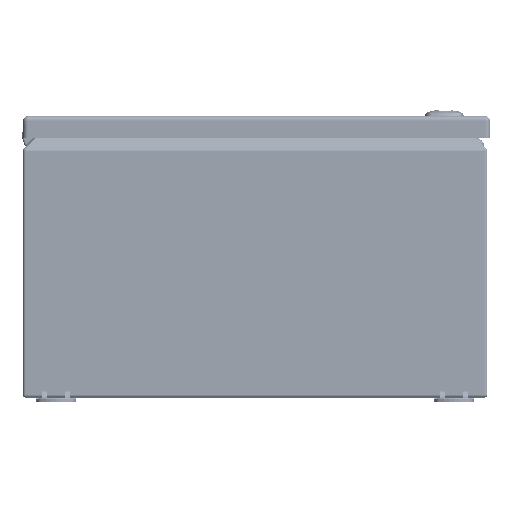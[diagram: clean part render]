
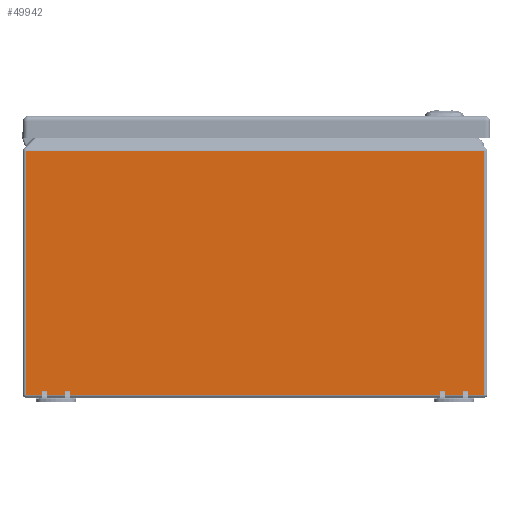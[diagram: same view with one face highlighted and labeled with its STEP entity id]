
A CAD part, front view. The second image highlights one B-rep face of the part: STEP entity #49942.
In plain terms, the highlighted planar face has unit normal (0, -1, 0).
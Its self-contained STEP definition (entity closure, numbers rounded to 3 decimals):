
#6357=FACE_OUTER_BOUND('',#9486,.T.);
#9486=EDGE_LOOP('',(#33743,#33744,#33745,#33746));
#12843=LINE('',#73163,#16778);
#12845=LINE('',#73176,#16780);
#12846=LINE('',#73180,#16781);
#12847=LINE('',#73181,#16782);
#16778=VECTOR('',#59134,0.394);
#16780=VECTOR('',#59152,0.394);
#16781=VECTOR('',#59157,0.394);
#16782=VECTOR('',#59158,0.394);
#20713=VERTEX_POINT('',#73160);
#20714=VERTEX_POINT('',#73162);
#20717=VERTEX_POINT('',#73175);
#20718=VERTEX_POINT('',#73179);
#25643=EDGE_CURVE('',#20713,#20714,#12843,.T.);
#25650=EDGE_CURVE('',#20714,#20717,#12845,.T.);
#25652=EDGE_CURVE('',#20718,#20713,#12846,.T.);
#25653=EDGE_CURVE('',#20717,#20718,#12847,.T.);
#33743=ORIENTED_EDGE('',*,*,#25643,.F.);
#33744=ORIENTED_EDGE('',*,*,#25652,.F.);
#33745=ORIENTED_EDGE('',*,*,#25653,.F.);
#33746=ORIENTED_EDGE('',*,*,#25650,.F.);
#48573=PLANE('',#53888);
#49942=ADVANCED_FACE('',(#6357),#48573,.F.);
#53888=AXIS2_PLACEMENT_3D('',#73178,#59155,#59156);
#59134=DIRECTION('',(0.,0.,1.));
#59152=DIRECTION('',(1.,0.,0.));
#59155=DIRECTION('center_axis',(0.,1.,0.));
#59156=DIRECTION('ref_axis',(0.,0.,1.));
#59157=DIRECTION('',(-1.,0.,0.));
#59158=DIRECTION('',(0.,0.,-1.));
#73160=CARTESIAN_POINT('',(-6.916,-8.,0.084));
#73162=CARTESIAN_POINT('',(-6.916,-8.,7.437));
#73163=CARTESIAN_POINT('',(-6.916,-8.,4.056));
#73175=CARTESIAN_POINT('',(6.916,-8.,7.437));
#73176=CARTESIAN_POINT('',(0.,-8.,7.437));
#73178=CARTESIAN_POINT('Origin',(0.,-8.,3.736));
#73179=CARTESIAN_POINT('',(6.916,-8.,0.084));
#73180=CARTESIAN_POINT('',(0.,-8.,0.084));
#73181=CARTESIAN_POINT('',(6.916,-8.,4.035));
